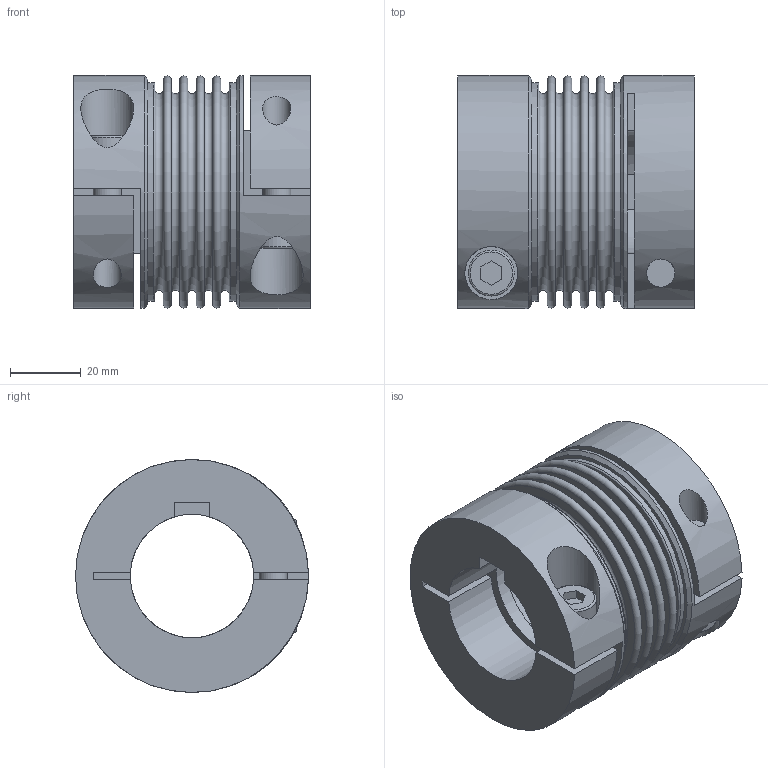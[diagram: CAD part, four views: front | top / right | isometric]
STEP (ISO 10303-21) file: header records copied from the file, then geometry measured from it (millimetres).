
FILE_DESCRIPTION(/* description */ ('STEP AP214'),/* implementation_level */ '2;1');
FILE_NAME(/* name */ 'C:\Diequa Files\DieQua Coupling\BCC\STP\BCC.60.#.#.stp',/* time_stamp */ '2018-11-20T10:56:38-06:00',/* author */ ('DiequaCAD'),/* organization */ (''),/* preprocessor_version */ 'ST-DEVELOPER v17.2',/* originating_system */ 'Autodesk Inventor 2019',/* authorisation */ ' ');
FILE_SCHEMA (('AUTOMOTIVE_DESIGN { 1 0 10303 214 3 1 1 }'));
Length unit declared in the file: millimetre
Products named in the file (1): BKC_60_35_PFN_35_PFN_58
Bounding box: 67 x 66 x 66 mm (x, y, z)
Volume: 111187.6 mm3; surface area: 45456.4 mm2
Topology: 1 solids, 1 shells, 88 faces, 220 edges, 152 vertices
Faces by surface type: plane 56, cylinder 17, torus 13, cone 2
Full cylindrical faces by diameter (mm): 8 x4, 13 x2, 15 x2, 54 x1, 62 x2, 66 x2
Entity records: 2903 total; most frequent: CARTESIAN_POINT 622, DIRECTION 487, ORIENTED_EDGE 440, EDGE_CURVE 220, AXIS2_PLACEMENT_3D 187, VERTEX_POINT 152, EDGE_LOOP 116, LINE 113
